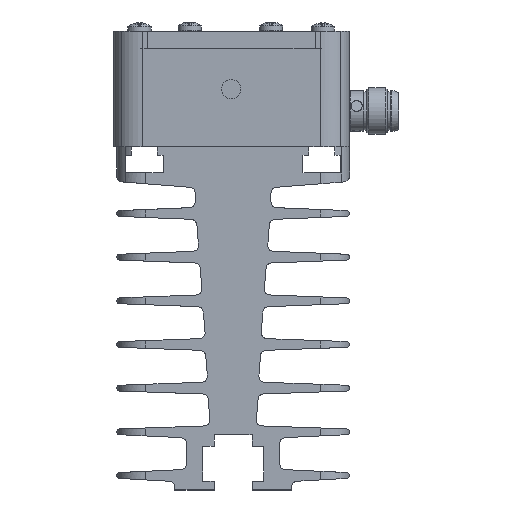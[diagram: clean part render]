
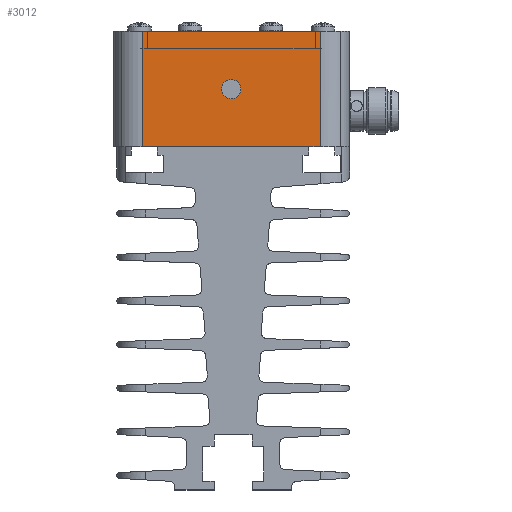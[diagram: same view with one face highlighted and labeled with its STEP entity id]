
A CAD part, left-side view. The second image highlights one B-rep face of the part: STEP entity #3012.
In plain terms, the highlighted planar face has unit normal (-1, 0, 0).
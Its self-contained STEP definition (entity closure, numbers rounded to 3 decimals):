
#3012=ADVANCED_FACE('54:14264',(#6846,#6847),#6848,.T.);
#6846=FACE_OUTER_BOUND('',#11563,.T.);
#6847=FACE_BOUND('',#11564,.T.);
#6848=PLANE('',#11565);
#11563=EDGE_LOOP('',(#21376,#21377,#21378,#21379,#21380,#21381,#21382,#21383));
#11564=EDGE_LOOP('',(#21384,#21385));
#11565=AXIS2_PLACEMENT_3D('',#21386,#21387,#21388);
#21376=ORIENTED_EDGE('',*,*,#31011,.T.);
#21377=ORIENTED_EDGE('',*,*,#31070,.T.);
#21378=ORIENTED_EDGE('',*,*,#32129,.F.);
#21379=ORIENTED_EDGE('',*,*,#32130,.T.);
#21380=ORIENTED_EDGE('',*,*,#29701,.F.);
#21381=ORIENTED_EDGE('',*,*,#31064,.T.);
#21382=ORIENTED_EDGE('',*,*,#30414,.T.);
#21383=ORIENTED_EDGE('',*,*,#30409,.T.);
#21384=ORIENTED_EDGE('',*,*,#32131,.T.);
#21385=ORIENTED_EDGE('',*,*,#29632,.T.);
#21386=CARTESIAN_POINT('',(67.9,0.0,0.0));
#21387=DIRECTION('',(-1.0,0.0,0.0));
#21388=DIRECTION('',(0.0,0.0,1.0));
#29632=EDGE_CURVE('54:20822',#36029,#36033,#36035,.T.);
#29701=EDGE_CURVE('54:20819',#36157,#36159,#36160,.T.);
#30409=EDGE_CURVE('54:16310',#37423,#37424,#37425,.T.);
#30414=EDGE_CURVE('54:16322',#37432,#37423,#37433,.T.);
#31011=EDGE_CURVE('54:17726',#37424,#38341,#38342,.T.);
#31064=EDGE_CURVE('54:17837',#36157,#37432,#38406,.T.);
#31070=EDGE_CURVE('54:17855',#38341,#38413,#38415,.T.);
#32129=EDGE_CURVE('54:20813',#39780,#38413,#39781,.T.);
#32130=EDGE_CURVE('54:20816',#39780,#36159,#39782,.F.);
#32131=EDGE_CURVE('54:20822',#36033,#36029,#39783,.T.);
#36029=VERTEX_POINT('',#45665);
#36033=VERTEX_POINT('',#45670);
#36035=CIRCLE('',#45673,1.65);
#36157=VERTEX_POINT('',#45822);
#36159=VERTEX_POINT('',#45824);
#36160=LINE('',#45825,#45826);
#37423=VERTEX_POINT('',#47871);
#37424=VERTEX_POINT('',#47872);
#37425=LINE('',#47873,#47874);
#37432=VERTEX_POINT('',#47884);
#37433=LINE('',#47885,#47886);
#38341=VERTEX_POINT('',#49663);
#38342=LINE('',#49664,#49665);
#38406=LINE('',#49812,#49813);
#38413=VERTEX_POINT('',#49822);
#38415=LINE('',#49824,#49825);
#39780=VERTEX_POINT('',#52255);
#39781=LINE('',#52256,#52257);
#39782=LINE('',#52258,#52259);
#39783=CIRCLE('',#52260,1.65);
#45665=CARTESIAN_POINT('',(67.9,1.65,9.9));
#45670=CARTESIAN_POINT('',(67.9,-1.65,9.9));
#45673=AXIS2_PLACEMENT_3D('',#59365,#59366,#59367);
#45822=CARTESIAN_POINT('',(67.9,15.3,0.0));
#45824=CARTESIAN_POINT('',(67.9,15.3,19.8));
#45825=CARTESIAN_POINT('',(67.9,15.3,0.0));
#45826=VECTOR('',#59476,0.001);
#47871=CARTESIAN_POINT('',(67.9,12.679,0.03));
#47872=CARTESIAN_POINT('',(67.9,-13.321,0.03));
#47873=CARTESIAN_POINT('',(67.9,-0.161,0.03));
#47874=VECTOR('',#60592,1.0);
#47884=CARTESIAN_POINT('',(67.9,12.679,0.0));
#47885=CARTESIAN_POINT('',(67.9,12.679,0.015));
#47886=VECTOR('',#60596,1.0);
#49663=CARTESIAN_POINT('',(67.9,-13.321,0.0));
#49664=CARTESIAN_POINT('',(67.9,-13.321,-0.735));
#49665=VECTOR('',#61244,1.0);
#49812=CARTESIAN_POINT('',(67.9,0.0,0.0));
#49813=VECTOR('',#61304,0.001);
#49822=CARTESIAN_POINT('',(67.9,-15.3,0.0));
#49824=CARTESIAN_POINT('',(67.9,0.0,0.0));
#49825=VECTOR('',#61316,0.001);
#52255=CARTESIAN_POINT('',(67.9,-15.3,19.8));
#52256=CARTESIAN_POINT('',(67.9,-15.3,0.0));
#52257=VECTOR('',#62229,0.001);
#52258=CARTESIAN_POINT('',(67.9,0.0,19.8));
#52259=VECTOR('',#62230,0.001);
#52260=AXIS2_PLACEMENT_3D('',#62231,#62232,#62233);
#59365=CARTESIAN_POINT('',(67.9,0.0,9.9));
#59366=DIRECTION('',(1.0,0.0,0.0));
#59367=DIRECTION('',(0.0,1.0,0.0));
#59476=DIRECTION('',(0.0,-0.0,1.0));
#60592=DIRECTION('',(-0.0,-1.0,0.));
#60596=DIRECTION('',(0.0,0.,1.0));
#61244=DIRECTION('',(0.0,0.,-1.0));
#61304=DIRECTION('',(-0.0,-1.0,-0.0));
#61316=DIRECTION('',(-0.0,-1.0,-0.0));
#62229=DIRECTION('',(-0.0,-0.0,-1.0));
#62230=DIRECTION('',(-0.0,-1.0,-0.0));
#62231=CARTESIAN_POINT('',(67.9,0.0,9.9));
#62232=DIRECTION('',(1.0,0.0,0.0));
#62233=DIRECTION('',(0.0,1.0,0.0));
